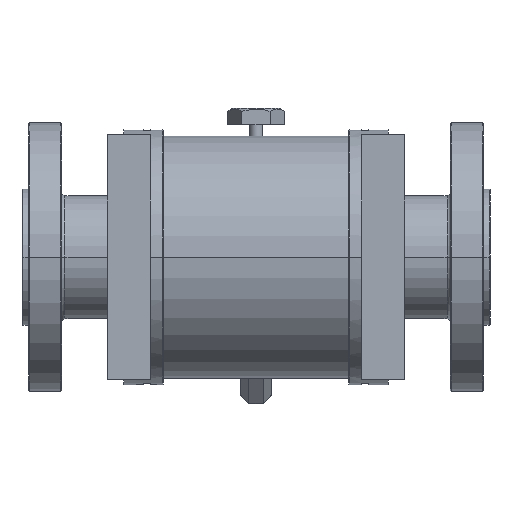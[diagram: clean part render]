
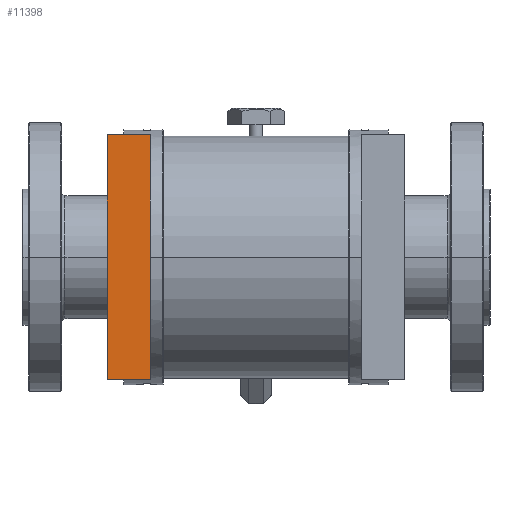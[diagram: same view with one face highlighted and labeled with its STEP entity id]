
A CAD part, front view. The second image highlights one B-rep face of the part: STEP entity #11398.
In plain terms, the highlighted planar face has unit normal (0, -1, 0).
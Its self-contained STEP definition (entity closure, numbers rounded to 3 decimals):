
#231 = VERTEX_POINT ( 'NONE', #1391 ) ;
#417 = PLANE ( 'NONE',  #9826 ) ;
#660 = VECTOR ( 'NONE', #11756, 1000. ) ;
#1267 = EDGE_CURVE ( 'NONE', #5549, #2291, #3847, .T. ) ;
#1391 = CARTESIAN_POINT ( 'NONE',  ( -160., -299., -185. ) ) ;
#1905 = CARTESIAN_POINT ( 'NONE',  ( -225., -299., -185. ) ) ;
#2245 = LINE ( 'NONE', #11803, #5107 ) ;
#2291 = VERTEX_POINT ( 'NONE', #4644 ) ;
#2382 = CARTESIAN_POINT ( 'NONE',  ( -160., -299., 185. ) ) ;
#2576 = EDGE_CURVE ( 'NONE', #5549, #231, #2245, .T. ) ;
#2682 = VERTEX_POINT ( 'NONE', #2382 ) ;
#3158 = EDGE_CURVE ( 'NONE', #2291, #2682, #9642, .T. ) ;
#3818 = ORIENTED_EDGE ( 'NONE', *, *, #9455, .T. ) ;
#3847 = LINE ( 'NONE', #1905, #6821 ) ;
#4471 = DIRECTION ( 'NONE',  ( 1., 0., 0. ) ) ;
#4605 = ORIENTED_EDGE ( 'NONE', *, *, #3158, .F. ) ;
#4644 = CARTESIAN_POINT ( 'NONE',  ( -225., -299., 185. ) ) ;
#5107 = VECTOR ( 'NONE', #4471, 1000. ) ;
#5549 = VERTEX_POINT ( 'NONE', #8980 ) ;
#5725 = DIRECTION ( 'NONE',  ( 0., 0., 1. ) ) ;
#6683 = EDGE_LOOP ( 'NONE', ( #7935, #3818, #4605, #11022 ) ) ;
#6821 = VECTOR ( 'NONE', #13369, 1000. ) ;
#7624 = CARTESIAN_POINT ( 'NONE',  ( -200., -299., 185. ) ) ;
#7935 = ORIENTED_EDGE ( 'NONE', *, *, #2576, .T. ) ;
#8794 = DIRECTION ( 'NONE',  ( 0., 1., 0. ) ) ;
#8980 = CARTESIAN_POINT ( 'NONE',  ( -225., -299., -185. ) ) ;
#9455 = EDGE_CURVE ( 'NONE', #231, #2682, #9654, .T. ) ;
#9642 = LINE ( 'NONE', #7624, #660 ) ;
#9654 = LINE ( 'NONE', #12680, #12295 ) ;
#9826 = AXIS2_PLACEMENT_3D ( 'NONE', #10736, #8794, #5725 ) ;
#10736 = CARTESIAN_POINT ( 'NONE',  ( -200., -299., 0. ) ) ;
#11022 = ORIENTED_EDGE ( 'NONE', *, *, #1267, .F. ) ;
#11398 = ADVANCED_FACE ( 'NONE', ( #11802 ), #417, .F. ) ;
#11700 = DIRECTION ( 'NONE',  ( 0., 0., 1. ) ) ;
#11756 = DIRECTION ( 'NONE',  ( 1., 0., 0. ) ) ;
#11802 = FACE_OUTER_BOUND ( 'NONE', #6683, .T. ) ;
#11803 = CARTESIAN_POINT ( 'NONE',  ( -200., -299., -185. ) ) ;
#12295 = VECTOR ( 'NONE', #11700, 1000. ) ;
#12680 = CARTESIAN_POINT ( 'NONE',  ( -160., -299., -185. ) ) ;
#13369 = DIRECTION ( 'NONE',  ( 0., 0., 1. ) ) ;
